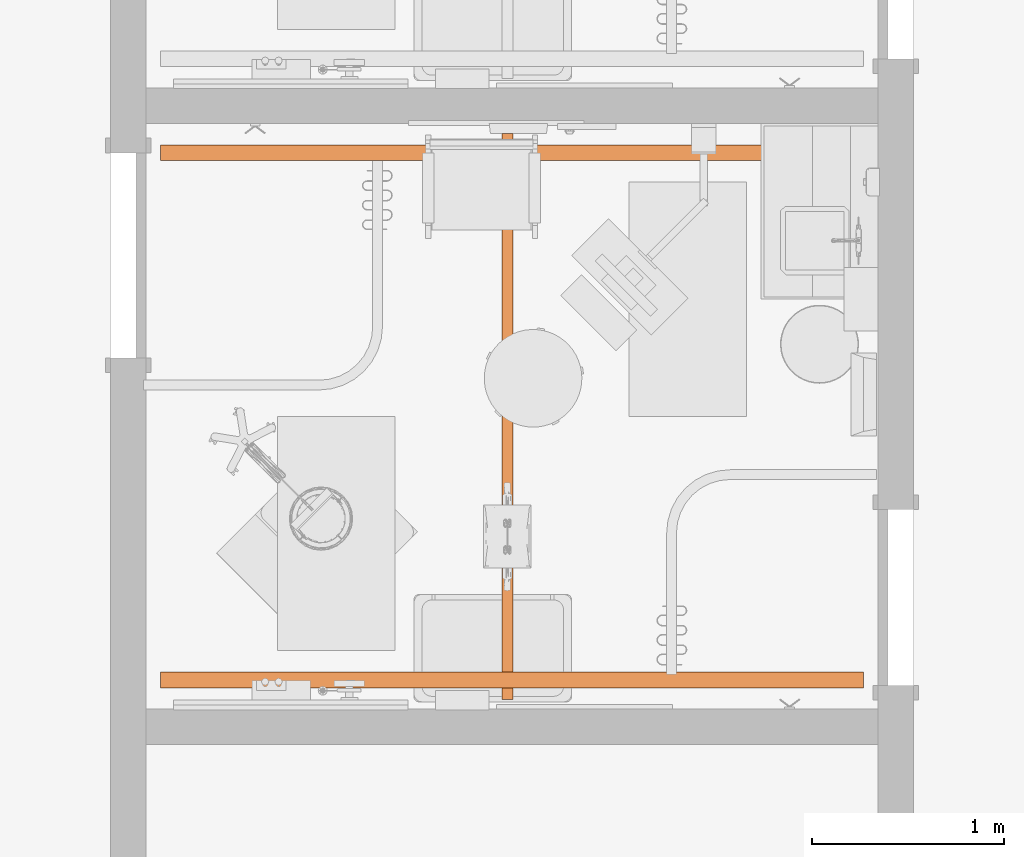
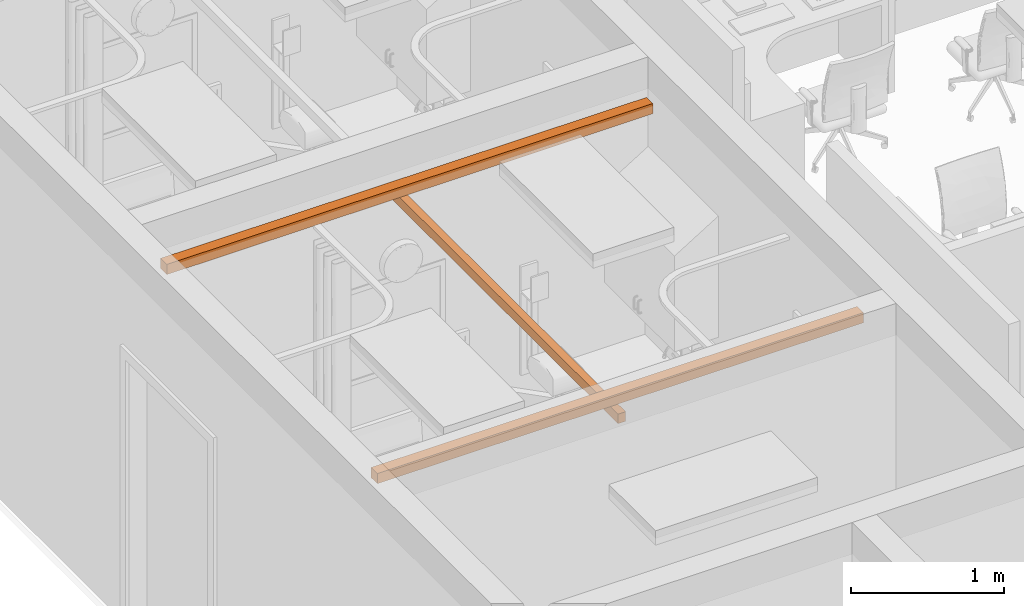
# One storey, part 48 of 142: 1 proxy.
"""IFC2X3 building model written with IfcOpenShell, lengths in feet."""

from ifc_helpers import new_model, entity, si_unit, converted_unit, derived_unit, direction, frame, frame_2d, origin, place, context, subcontext, project, spatial, rectangle, extrude, source, transform, mapped, type_object, type_shapes, element, save


model = new_model("IFC2X3")

# Units and contexts
model_context = context("Model", 3, precision=0.0001, world=origin(), true_north=direction((6.12303176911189e-17, 1.0)))
body_context = subcontext(model_context, "Body", "Model", "MODEL_VIEW")
ifc_project = project(units=[converted_unit("LENGTHUNIT", "FOOT", entity("IfcRatioMeasure", 0.3048), si_unit("LENGTHUNIT", "METRE"), dimensions=[1, 0, 0, 0, 0, 0, 0]), converted_unit("AREAUNIT", "SQUARE FOOT", entity("IfcRatioMeasure", 0.09290304), si_unit("AREAUNIT", "SQUARE_METRE"), dimensions=[2, 0, 0, 0, 0, 0, 0]), converted_unit("VOLUMEUNIT", "CUBIC FOOT", entity("IfcRatioMeasure", 0.028316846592), si_unit("VOLUMEUNIT", "CUBIC_METRE"), dimensions=[3, 0, 0, 0, 0, 0, 0]), converted_unit("PLANEANGLEUNIT", "DEGREE", entity("IfcRatioMeasure", 0.0174532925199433), si_unit("PLANEANGLEUNIT", "RADIAN"), dimensions=[0, 0, 0, 0, 0, 0, 0]), si_unit("MASSUNIT", "GRAM", prefix="KILO"), derived_unit("MASSDENSITYUNIT", [(si_unit("MASSUNIT", "GRAM", prefix="KILO"), 1), (si_unit("LENGTHUNIT", "METRE"), -3)]), si_unit("TIMEUNIT", "SECOND"), si_unit("FREQUENCYUNIT", "HERTZ"), si_unit("THERMODYNAMICTEMPERATUREUNIT", "DEGREE_CELSIUS"), derived_unit("THERMALTRANSMITTANCEUNIT", [(si_unit("MASSUNIT", "GRAM", prefix="KILO"), 1), (si_unit("THERMODYNAMICTEMPERATUREUNIT", "KELVIN"), -1), (si_unit("TIMEUNIT", "SECOND"), -3)]), derived_unit("VOLUMETRICFLOWRATEUNIT", [(si_unit("LENGTHUNIT", "METRE"), 3), (si_unit("TIMEUNIT", "SECOND"), -1)]), si_unit("ELECTRICCURRENTUNIT", "AMPERE"), si_unit("ELECTRICVOLTAGEUNIT", "VOLT"), si_unit("POWERUNIT", "WATT"), si_unit("FORCEUNIT", "NEWTON"), si_unit("ILLUMINANCEUNIT", "LUX"), si_unit("LUMINOUSFLUXUNIT", "LUMEN"), si_unit("LUMINOUSINTENSITYUNIT", "CANDELA"), derived_unit("USERDEFINED", [(si_unit("MASSUNIT", "GRAM", prefix="KILO"), -1), (si_unit("LENGTHUNIT", "METRE"), -2), (si_unit("TIMEUNIT", "SECOND"), 3), (si_unit("LUMINOUSFLUXUNIT", "LUMEN"), 1)]), derived_unit("LINEARVELOCITYUNIT", [(si_unit("LENGTHUNIT", "METRE"), 1), (si_unit("TIMEUNIT", "SECOND"), -1)]), si_unit("PRESSUREUNIT", "PASCAL"), derived_unit("USERDEFINED", [(si_unit("LENGTHUNIT", "METRE"), -2), (si_unit("MASSUNIT", "GRAM", prefix="KILO"), 1), (si_unit("TIMEUNIT", "SECOND"), -2)])], contexts=[model_context])

# Site, building, storey, space
site_placement = place(None, origin())
site = spatial("IfcSite", under=ifc_project, at=site_placement, Name="Default", CompositionType="ELEMENT")
building_placement = place(site_placement, origin())
building = spatial("IfcBuilding", under=site, at=building_placement, Name="OUTPATIENT / PACT CLINIC (Ch. 265)", CompositionType="ELEMENT")
storey_placement = place(building_placement, origin())
storey = spatial("IfcBuildingStorey", under=building, at=storey_placement, Name="LEVEL 1", CompositionType="ELEMENT", Elevation=0.0)
space_placement = place(storey_placement, origin())
space = spatial("IfcSpace", under=storey, at=space_placement, Name="EXPA01", CompositionType="ELEMENT", InteriorOrExteriorSpace="INTERNAL")

# Proxy
building_element_proxy_type = type_object("IfcBuildingElementProxyType", Name="A1203 Lift System, Overhead, Bariatric", PredefinedType="NOTDEFINED")
shared_shape = source(origin(), body_context, "Body", "SweptSolid", [
    extrude(rectangle(XDim=9.66757011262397, YDim=0.190288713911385, at=frame_2d((0.0, -6.93889390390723e-18), x_axis=(1.0, 0.0))), frame((0.244358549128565, 0.0796819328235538, 8.63910761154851), z_axis=(0.0, 0.0, 1.0), x_axis=(-1.0, 0.0, 0.0)), (0.0, 0.0, 1.0), 0.249343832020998),
    extrude(rectangle(XDim=11.9998599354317, YDim=0.267060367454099, at=frame_2d((0.0, 4.44089209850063e-16), x_axis=(1.0, 0.0))), frame((4.74481027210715, 0.0, 8.99015748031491), z_axis=(0.0, 0.0, 1.0), x_axis=(0.0, 1.0, 0.0)), (0.0, 0.0, 1.0), 0.265748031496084),
    extrude(rectangle(XDim=11.9998599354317, YDim=0.267060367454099, at=frame_2d((0.0, 4.44089209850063e-16), x_axis=(1.0, 0.0))), frame((-4.25609317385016, 0.0, 8.99015748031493), z_axis=(0.0, 0.0, 1.0), x_axis=(0.0, 1.0, 0.0)), (0.0, 0.0, 1.0), 0.265748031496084),
])
type_shapes(building_element_proxy_type, [shared_shape])
proxy_placement = place(space_placement, frame((397.213379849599, -892.269496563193, 0.0), z_axis=(0.0, 0.0, 1.0), x_axis=(0.0, 1.0, 0.0)))
element("IfcBuildingElementProxy", 1, at=proxy_placement, inside=space, type_object=building_element_proxy_type, Name="A1203 Lift System, Overhead, Bariatric (Traverse):A1203 Lift System, Overhead, Bariatric", ObjectType="A1203 Lift System, Overhead, Bariatric", context=body_context, shape_type="MappedRepresentation", body=[
    mapped(shared_shape, transform((0.0, 0.0, 0.0), scale=1.0)),
])

save(model, "model.ifc")
